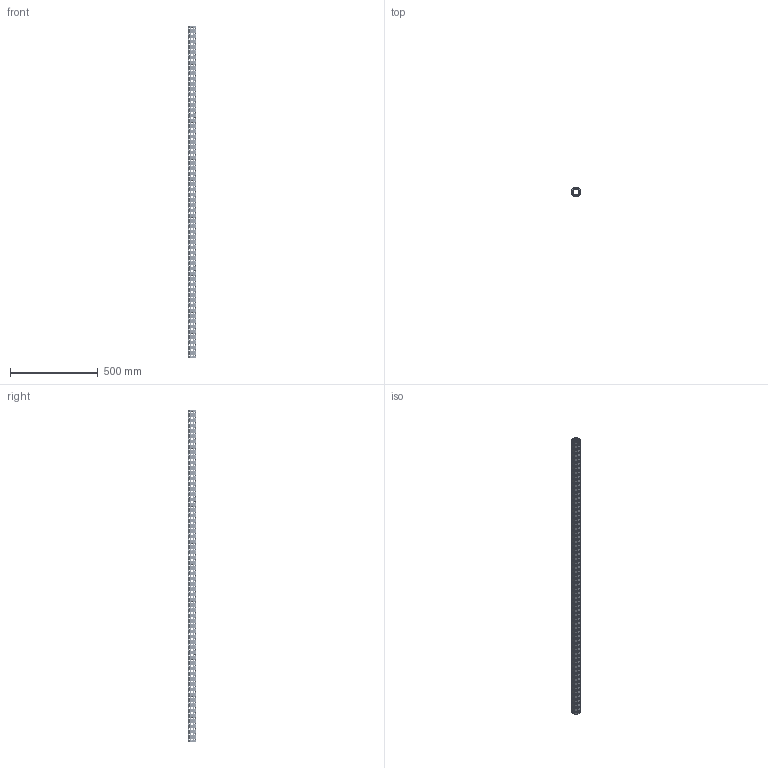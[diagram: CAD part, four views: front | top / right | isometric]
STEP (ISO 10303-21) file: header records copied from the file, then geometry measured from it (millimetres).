
FILE_DESCRIPTION(('CATIA V5 STEP Exchange'),'2;1');
FILE_NAME('U:\Room\唐宝山\EGT002\46-01-010292-01-EGT002-1888.stp','2021-08-24T01:42:11+00:00',('none'),('none'),'CATIA Version 5 Release 21 GA (IN-10)','CATIA V5 STEP AP203','none');
FILE_SCHEMA(('CONFIG_CONTROL_DESIGN'));
Products named in the file (1): 46-01-010292-01-EGT002-1888
Bounding box: 50 x 50 x 1888 mm (x, y, z)
Volume: 1345171.2 mm3; surface area: 648625.5 mm2
Topology: 1 solids, 1 shells, 2604 faces, 7176 edges, 4448 vertices
Faces by surface type: cone 1512, cylinder 1066, plane 26
Entity records: 112077 total; most frequent: CARTESIAN_POINT 49648, ORIENTED_EDGE 14352, DIRECTION 9824, EDGE_CURVE 7176, VERTEX_POINT 4448, AXIS2_PLACEMENT_3D 4445, EDGE_LOOP 3488, VECTOR 2776
